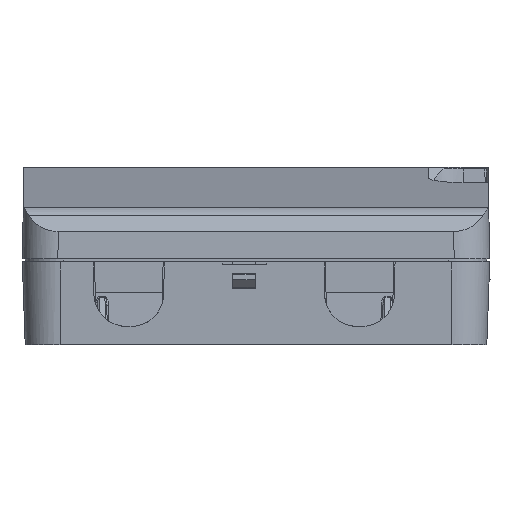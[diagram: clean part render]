
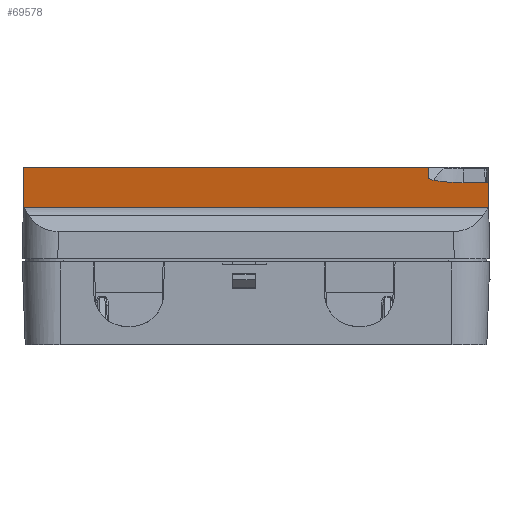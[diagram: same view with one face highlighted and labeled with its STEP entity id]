
A CAD part, left-side view. The second image highlights one B-rep face of the part: STEP entity #69578.
In plain terms, the highlighted planar face has unit normal (-0.14, 0, 0.99) as drawn and (0, -0.141, 0.99) by its records, which use the part's own axes.
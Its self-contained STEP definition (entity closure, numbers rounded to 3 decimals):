
#802 = DIRECTION ( 'NONE',  ( -0.002, 0.99, 0.141 ) ) ;
#1475 = CARTESIAN_POINT ( 'NONE',  ( -4.359, 16.112, 64.73 ) ) ;
#1619 = CARTESIAN_POINT ( 'NONE',  ( 64.062, 62.9, 71.387 ) ) ;
#1877 = CARTESIAN_POINT ( 'NONE',  ( 64.106, 50.931, 69.684 ) ) ;
#2883 = EDGE_CURVE ( 'NONE', #46863, #38589, #26000, .T. ) ;
#5756 = ORIENTED_EDGE ( 'NONE', *, *, #36319, .T. ) ;
#7690 = DIRECTION ( 'NONE',  ( -0.002, -0.99, -0.141 ) ) ;
#9372 = CARTESIAN_POINT ( 'NONE',  ( 82.979, 63.32, 71.447 ) ) ;
#10598 = VERTEX_POINT ( 'NONE', #12600 ) ;
#12600 = CARTESIAN_POINT ( 'NONE',  ( -4.338, 15.772, 64.682 ) ) ;
#12980 = VECTOR ( 'NONE', #7690, 1000. ) ;
#13643 = VERTEX_POINT ( 'NONE', #1619 ) ;
#19889 = VERTEX_POINT ( 'NONE', #76952 ) ;
#19962 = CARTESIAN_POINT ( 'NONE',  ( -4.358, 16.282, 64.754 ) ) ;
#21160 = VECTOR ( 'NONE', #48575, 1000. ) ;
#22682 = ORIENTED_EDGE ( 'NONE', *, *, #77166, .T. ) ;
#23208 = CARTESIAN_POINT ( 'NONE',  ( 74.317, 16.282, 64.754 ) ) ;
#23857 = VECTOR ( 'NONE', #24035, 1000. ) ;
#24035 = DIRECTION ( 'NONE',  ( -1., 0., 0. ) ) ;
#26000 =( BOUNDED_CURVE ( )  B_SPLINE_CURVE ( 3, ( #68776, #56295, #83462, #1877 ),
 .UNSPECIFIED., .F., .F. ) 
 B_SPLINE_CURVE_WITH_KNOTS ( ( 4, 4 ),
 ( 3.142, 4.709 ),
 .UNSPECIFIED. ) 
 CURVE ( )  GEOMETRIC_REPRESENTATION_ITEM ( )  RATIONAL_B_SPLINE_CURVE ( ( 1., 0.806, 0.806, 1. ) ) 
 REPRESENTATION_ITEM ( '' )  );
#27165 = LINE ( 'NONE', #34719, #50525 ) ;
#27804 = EDGE_CURVE ( 'NONE', #19889, #52874, #74376, .T. ) ;
#27975 = CARTESIAN_POINT ( 'NONE',  ( 69.979, 45.08, 68.852 ) ) ;
#28542 = CARTESIAN_POINT ( 'NONE',  ( 64.263, 8.944, 63.71 ) ) ;
#28700 = CARTESIAN_POINT ( 'NONE',  ( -4.358, 16.282, 64.754 ) ) ;
#29599 =( BOUNDED_CURVE ( )  B_SPLINE_CURVE ( 3, ( #35370, #62568, #1475, #28700 ),
 .UNSPECIFIED., .F., .F. ) 
 B_SPLINE_CURVE_WITH_KNOTS ( ( 4, 4 ),
 ( 1.377, 1.462 ),
 .UNSPECIFIED. ) 
 CURVE ( )  GEOMETRIC_REPRESENTATION_ITEM ( )  RATIONAL_B_SPLINE_CURVE ( ( 1., 0.999, 0.999, 1. ) ) 
 REPRESENTATION_ITEM ( '' )  );
#30708 = CARTESIAN_POINT ( 'NONE',  ( 90.549, 45.08, 68.852 ) ) ;
#31207 = DIRECTION ( 'NONE',  ( 0., -0.141, 0.99 ) ) ;
#32326 = EDGE_LOOP ( 'NONE', ( #80788, #22682, #50441, #68994, #47976, #34159, #71085, #5756, #79572 ) ) ;
#34159 = ORIENTED_EDGE ( 'NONE', *, *, #2883, .T. ) ;
#34719 = CARTESIAN_POINT ( 'NONE',  ( -4.021, 62.9, 71.387 ) ) ;
#35152 = CARTESIAN_POINT ( 'NONE',  ( 74.253, 42.084, 68.425 ) ) ;
#35370 = CARTESIAN_POINT ( 'NONE',  ( -4.338, 15.772, 64.682 ) ) ;
#36319 = EDGE_CURVE ( 'NONE', #13643, #55503, #27165, .T. ) ;
#38295 = CARTESIAN_POINT ( 'NONE',  ( 74.317, 16.112, 64.73 ) ) ;
#38589 = VERTEX_POINT ( 'NONE', #56518 ) ;
#39191 = LINE ( 'NONE', #35152, #42794 ) ;
#39659 = CARTESIAN_POINT ( 'NONE',  ( -4.243, 62.9, 71.387 ) ) ;
#42227 = DIRECTION ( 'NONE',  ( 1., 0., 0. ) ) ;
#42794 = VECTOR ( 'NONE', #802, 1000. ) ;
#43970 = EDGE_CURVE ( 'NONE', #81591, #46863, #65458, .T. ) ;
#44563 = PLANE ( 'NONE',  #59685 ) ;
#45369 = CARTESIAN_POINT ( 'NONE',  ( 74.296, 15.772, 64.682 ) ) ;
#46863 = VERTEX_POINT ( 'NONE', #27975 ) ;
#47976 = ORIENTED_EDGE ( 'NONE', *, *, #43970, .T. ) ;
#48575 = DIRECTION ( 'NONE',  ( 0.004, -0.99, -0.141 ) ) ;
#48966 = VECTOR ( 'NONE', #42227, 1000. ) ;
#50441 = ORIENTED_EDGE ( 'NONE', *, *, #27804, .F. ) ;
#50525 = VECTOR ( 'NONE', #82388, 1000. ) ;
#52874 = VERTEX_POINT ( 'NONE', #45369 ) ;
#53454 = CARTESIAN_POINT ( 'NONE',  ( 82.979, 15.772, 64.682 ) ) ;
#55503 = VERTEX_POINT ( 'NONE', #39659 ) ;
#56295 = CARTESIAN_POINT ( 'NONE',  ( 66.549, 45.08, 68.852 ) ) ;
#56300 = LINE ( 'NONE', #68779, #12980 ) ;
#56518 = CARTESIAN_POINT ( 'NONE',  ( 64.106, 50.931, 69.684 ) ) ;
#56621 = VERTEX_POINT ( 'NONE', #19962 ) ;
#57524 = FACE_OUTER_BOUND ( 'NONE', #32326, .T. ) ;
#59128 = EDGE_CURVE ( 'NONE', #13643, #38589, #69096, .T. ) ;
#59685 = AXIS2_PLACEMENT_3D ( 'NONE', #9372, #31207, #84703 ) ;
#61149 = EDGE_CURVE ( 'NONE', #10598, #56621, #29599, .T. ) ;
#62568 = CARTESIAN_POINT ( 'NONE',  ( -4.352, 15.942, 64.706 ) ) ;
#65458 = LINE ( 'NONE', #30708, #23857 ) ;
#66814 = LINE ( 'NONE', #53454, #48966 ) ;
#68776 = CARTESIAN_POINT ( 'NONE',  ( 69.979, 45.08, 68.852 ) ) ;
#68779 = CARTESIAN_POINT ( 'NONE',  ( -4.377, 8.945, 63.71 ) ) ;
#68994 = ORIENTED_EDGE ( 'NONE', *, *, #71008, .T. ) ;
#69096 = LINE ( 'NONE', #28542, #21160 ) ;
#69578 = ADVANCED_FACE ( 'NONE', ( #57524 ), #44563, .T. ) ;
#71008 = EDGE_CURVE ( 'NONE', #19889, #81591, #39191, .T. ) ;
#71085 = ORIENTED_EDGE ( 'NONE', *, *, #59128, .F. ) ;
#71856 = EDGE_CURVE ( 'NONE', #55503, #56621, #56300, .T. ) ;
#72764 = CARTESIAN_POINT ( 'NONE',  ( 74.245, 45.08, 68.852 ) ) ;
#74376 =( BOUNDED_CURVE ( )  B_SPLINE_CURVE ( 3, ( #23208, #38295, #77558, #77996 ),
 .UNSPECIFIED., .F., .F. ) 
 B_SPLINE_CURVE_WITH_KNOTS ( ( 4, 4 ),
 ( 4.821, 4.906 ),
 .UNSPECIFIED. ) 
 CURVE ( )  GEOMETRIC_REPRESENTATION_ITEM ( )  RATIONAL_B_SPLINE_CURVE ( ( 1., 0.999, 0.999, 1. ) ) 
 REPRESENTATION_ITEM ( '' )  );
#76952 = CARTESIAN_POINT ( 'NONE',  ( 74.317, 16.282, 64.754 ) ) ;
#77166 = EDGE_CURVE ( 'NONE', #10598, #52874, #66814, .T. ) ;
#77558 = CARTESIAN_POINT ( 'NONE',  ( 74.31, 15.942, 64.706 ) ) ;
#77996 = CARTESIAN_POINT ( 'NONE',  ( 74.296, 15.772, 64.682 ) ) ;
#79572 = ORIENTED_EDGE ( 'NONE', *, *, #71856, .T. ) ;
#80788 = ORIENTED_EDGE ( 'NONE', *, *, #61149, .F. ) ;
#81591 = VERTEX_POINT ( 'NONE', #72764 ) ;
#82388 = DIRECTION ( 'NONE',  ( -1., 0., 0. ) ) ;
#83462 = CARTESIAN_POINT ( 'NONE',  ( 64.119, 47.501, 69.196 ) ) ;
#84703 = DIRECTION ( 'NONE',  ( -1., 0., 0. ) ) ;
